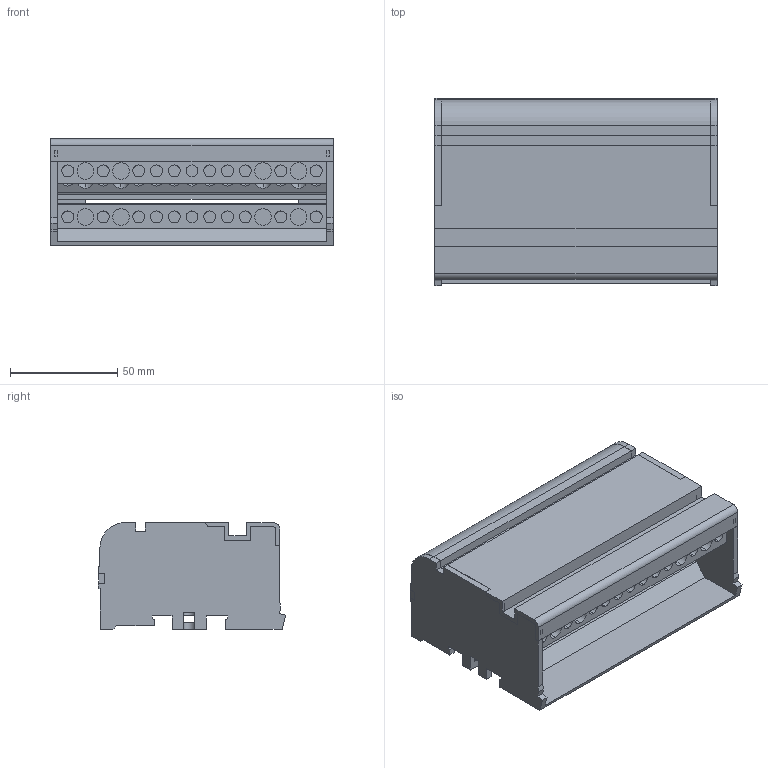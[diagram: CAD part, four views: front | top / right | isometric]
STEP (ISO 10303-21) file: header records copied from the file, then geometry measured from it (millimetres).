
FILE_DESCRIPTION (( 'STEP AP214' ), '1' );
FILE_NAME ('ﾘﾍﾊ 4x15.STEP', '2023-09-28T11:04:35', ( '' ), ( '' ), 'SwSTEP 2.0', 'SolidWorks 2018', '' );
FILE_SCHEMA (( 'AUTOMOTIVE_DESIGN' ));
Length unit declared in the file: millimetre
Products named in the file (3): Êðûøêà ØÍÊ 4x15; Êîðïóñ ØÍÊ 4x15; ﾘﾍﾊ 4x15
Assembly tree (2 placements, depth 2):
  ﾘﾍﾊ 4x15
    Êîðïóñ ØÍÊ 4x15
    Êðûøêà ØÍÊ 4x15
Bounding box: 131.8 x 87.5 x 49.9 mm (x, y, z)
Volume: 115251.2 mm3; surface area: 119513.4 mm2
Topology: 2 solids, 2 shells, 593 faces, 1889 edges, 1236 vertices
Faces by surface type: plane 330, cylinder 263
Entity records: 24091 total; most frequent: CARTESIAN_POINT 6779, ORIENTED_EDGE 3778, DIRECTION 3399, EDGE_CURVE 1889, VERTEX_POINT 1236, AXIS2_PLACEMENT_3D 1136, VECTOR 1127, LINE 1127
